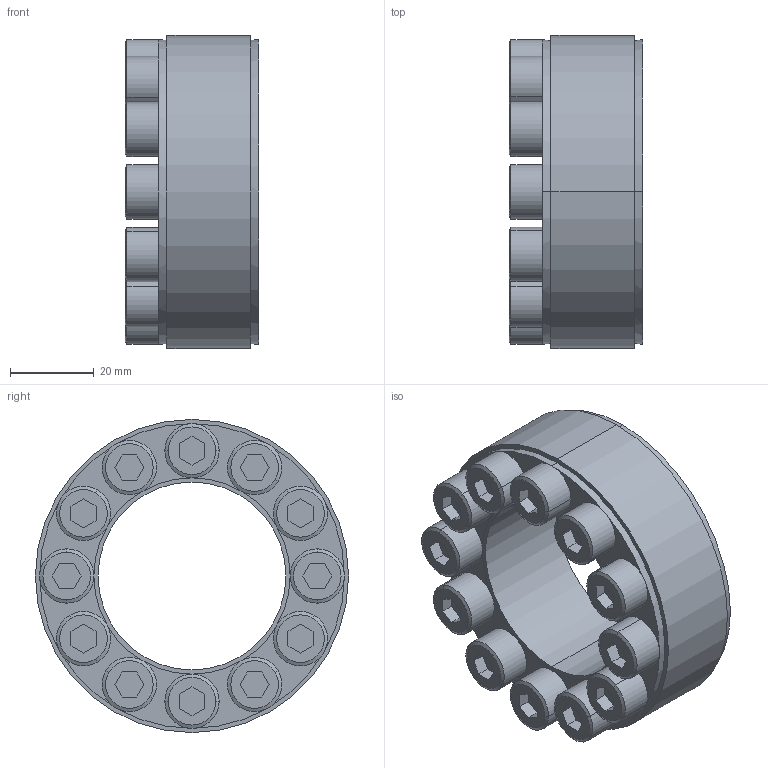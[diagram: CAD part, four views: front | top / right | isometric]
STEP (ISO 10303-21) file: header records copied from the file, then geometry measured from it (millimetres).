
FILE_DESCRIPTION (( 'STEP AP203' ), '1' );
FILE_NAME ('SA-45.step', '2009-09-29T15:29:27', ( 'USER' ), ( 'HOME' ), 'SwSTEP 2.0', 'SolidWorks 2007', '' );
FILE_SCHEMA (( 'CONFIG_CONTROL_DESIGN' ));
Length unit declared in the file: millimetre
Products named in the file (1): SA-45
Bounding box: 32 x 75 x 75 mm (x, y, z)
Volume: 78787.4 mm3; surface area: 49487.7 mm2
Topology: 15 solids, 15 shells, 242 faces, 532 edges, 344 vertices
Faces by surface type: plane 126, cylinder 76, cone 40
Entity records: 6769 total; most frequent: DIRECTION 1218, CARTESIAN_POINT 1119, ORIENTED_EDGE 1064, EDGE_CURVE 532, AXIS2_PLACEMENT_3D 443, VERTEX_POINT 344, VECTOR 332, LINE 332
